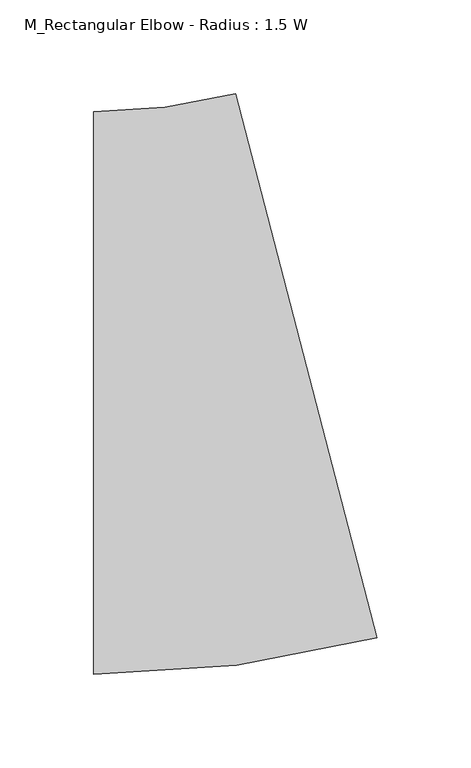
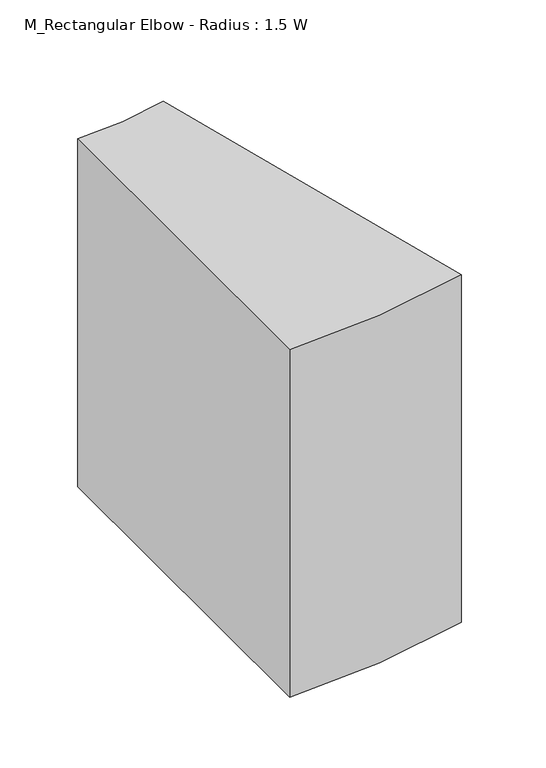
"""IFC4 building model written with IfcOpenShell, lengths in millimetres: duct fitting geometry, M_Rectangular Elbow - Radius : 1.5 W."""

from ifc_helpers import new_model, si_unit, point, frame, frame_2d, origin, place, context, project, spatial, polyline, circle_curve, trimmed, segment, composite_curve, outline, extrude, source, transform, mapped, element, save


def m_rectangular_elbow_radius_1_5_w_669d0619(model_context):
    return source(origin(), model_context, "Body", "SweptSolid", [
        extrude(outline(composite_curve([segment(trimmed(circle_curve(frame_2d((-57.7072854, 450.0)), 600.0), [point((93.6890821, -130.5851702))], [point((-57.7072854, -150.0))], False, "CARTESIAN"), True, "CONTINUOUS"), segment(polyline([(-57.7072854, -150.0), (-57.7072854, 150.0)]), True, "CONTINUOUS"), segment(trimmed(circle_curve(frame_2d((-57.7072854, 450.0)), 300.0), [point((-57.7072854, 150.0))], [point((17.9908983, 159.7074149))], True, "CARTESIAN"), True, "CONTINUOUS"), segment(polyline([(17.9908983, 159.7074149), (93.6890821, -130.5851702)]), True, "CONTINUOUS")], self_intersect=False)), frame((0.0, 0.0, -150.0), z_axis=(0.0, 0.0, 1.0), x_axis=(1.0, 0.0, 0.0)), (0.0, 0.0, 1.0), 300.0),
        extrude(outline(composite_curve([segment(trimmed(circle_curve(frame_2d((-57.7072854, 450.0)), 600.0), [point((93.6890821, -130.5851702))], [point((-57.7072854, -150.0))], False, "CARTESIAN"), True, "CONTINUOUS"), segment(polyline([(-57.7072854, -150.0), (-57.7072854, 150.0)]), True, "CONTINUOUS"), segment(trimmed(circle_curve(frame_2d((-57.7072854, 450.0)), 300.0), [point((-57.7072854, 150.0))], [point((17.9908983, 159.7074149))], True, "CARTESIAN"), True, "CONTINUOUS"), segment(polyline([(17.9908983, 159.7074149), (93.6890821, -130.5851702)]), True, "CONTINUOUS")], self_intersect=False)), frame((0.0, 0.0, -150.0), z_axis=(0.0, 0.0, 1.0), x_axis=(1.0, 0.0, 0.0)), (0.0, 0.0, 1.0), 300.0),
        extrude(outline(composite_curve([segment(trimmed(circle_curve(frame_2d((-57.7072854, 450.0)), 600.0), [point((93.6890821, -130.5851702))], [point((-57.7072854, -150.0))], False, "CARTESIAN"), True, "CONTINUOUS"), segment(polyline([(-57.7072854, -150.0), (-57.7072854, 150.0)]), True, "CONTINUOUS"), segment(trimmed(circle_curve(frame_2d((-57.7072854, 450.0)), 300.0), [point((-57.7072854, 150.0))], [point((17.9908983, 159.7074149))], True, "CARTESIAN"), True, "CONTINUOUS"), segment(polyline([(17.9908983, 159.7074149), (93.6890821, -130.5851702)]), True, "CONTINUOUS")], self_intersect=False)), frame((0.0, 0.0, -150.0), z_axis=(0.0, 0.0, 1.0), x_axis=(1.0, 0.0, 0.0)), (0.0, 0.0, 1.0), 300.0),
    ])


if __name__ == "__main__":
    model = new_model("IFC4")
    model_context = context("Model", 3, world=origin())
    ifc_project = project(units=[si_unit("LENGTHUNIT", "METRE", prefix="MILLI")], contexts=[model_context])
    site = spatial("IfcSite", under=ifc_project)
    building = spatial("IfcBuilding", under=site)
    placement = place(None, origin())
    m_rectangular_elbow_radius_1_5_w_shape = m_rectangular_elbow_radius_1_5_w_669d0619(model_context)
    element("IfcDuctFitting", 1, ObjectType="M_Rectangular Elbow - Radius : 1.5 W", at=placement, inside=building, context=model_context, shape_type="MappedRepresentation", body=[
        mapped(m_rectangular_elbow_radius_1_5_w_shape, transform((0.0, 0.0, 0.0), x_axis=(1.0, 0.0, 0.0), y_axis=(0.0, 1.0, 0.0), z_axis=(0.0, 0.0, 1.0))),
    ])
    save(model, "model.ifc")
